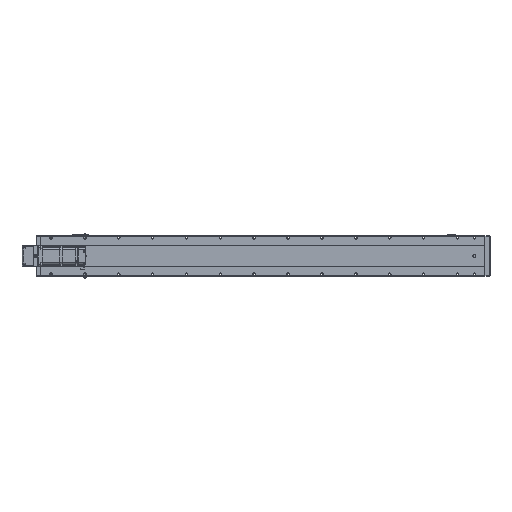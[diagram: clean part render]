
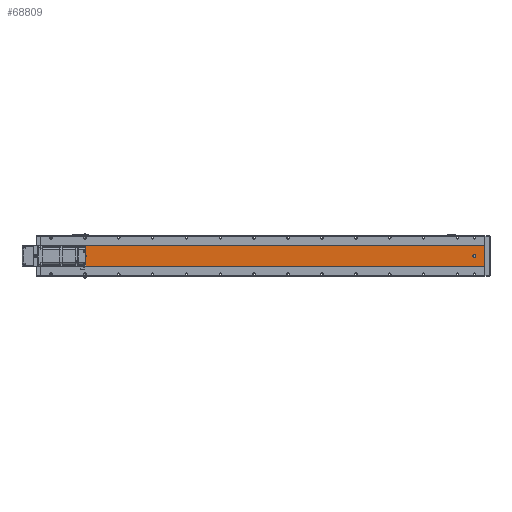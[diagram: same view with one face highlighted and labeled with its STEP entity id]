
A CAD part, front view. The second image highlights one B-rep face of the part: STEP entity #68809.
In plain terms, the highlighted planar face has unit normal (0, -1, 0).
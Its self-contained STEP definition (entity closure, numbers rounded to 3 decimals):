
#100 = FACE_OUTER_BOUND ( 'NONE', #72475, .T. ) ;
#885 = ORIENTED_EDGE ( 'NONE', *, *, #17085, .T. ) ;
#1206 = EDGE_CURVE ( 'NONE', #34655, #63759, #50655, .T. ) ;
#1955 = DIRECTION ( 'NONE',  ( 0., 1., 0. ) ) ;
#2602 = VERTEX_POINT ( 'NONE', #57006 ) ;
#2847 = AXIS2_PLACEMENT_3D ( 'NONE', #50831, #83207, #50553 ) ;
#6127 = ORIENTED_EDGE ( 'NONE', *, *, #20085, .T. ) ;
#6272 = LINE ( 'NONE', #49454, #44627 ) ;
#6919 = DIRECTION ( 'NONE',  ( 0., 0., 1. ) ) ;
#7281 = VECTOR ( 'NONE', #45381, 1000. ) ;
#8021 = VERTEX_POINT ( 'NONE', #15954 ) ;
#8726 = EDGE_CURVE ( 'NONE', #72195, #37219, #76071, .T. ) ;
#10069 = ORIENTED_EDGE ( 'NONE', *, *, #55110, .T. ) ;
#10107 = CIRCLE ( 'NONE', #41247, 3.5 ) ;
#10758 = DIRECTION ( 'NONE',  ( 0., 1., 0. ) ) ;
#11600 = CARTESIAN_POINT ( 'NONE',  ( -69.892, -52.848, 0. ) ) ;
#11965 = DIRECTION ( 'NONE',  ( 0., 0., -1. ) ) ;
#12107 = DIRECTION ( 'NONE',  ( 0., 0., 1. ) ) ;
#12565 = CARTESIAN_POINT ( 'NONE',  ( -36.392, -52.848, 30. ) ) ;
#13209 = VERTEX_POINT ( 'NONE', #12565 ) ;
#15849 = CARTESIAN_POINT ( 'NONE',  ( -9.892, -52.848, 1311. ) ) ;
#15954 = CARTESIAN_POINT ( 'NONE',  ( -43.392, -52.848, 32. ) ) ;
#16198 = VECTOR ( 'NONE', #48722, 1000. ) ;
#17085 = EDGE_CURVE ( 'NONE', #17718, #8021, #6272, .T. ) ;
#17603 = CIRCLE ( 'NONE', #47651, 3.5 ) ;
#17668 = FACE_BOUND ( 'NONE', #69574, .T. ) ;
#17718 = VERTEX_POINT ( 'NONE', #25808 ) ;
#20085 = EDGE_CURVE ( 'NONE', #52794, #82276, #83126, .T. ) ;
#21168 = EDGE_CURVE ( 'NONE', #64671, #13209, #33397, .T. ) ;
#21835 = FACE_BOUND ( 'NONE', #48813, .T. ) ;
#21885 = DIRECTION ( 'NONE',  ( 0., 0., 1. ) ) ;
#24753 = ORIENTED_EDGE ( 'NONE', *, *, #50324, .T. ) ;
#25808 = CARTESIAN_POINT ( 'NONE',  ( -43.392, -52.848, 30. ) ) ;
#25851 = LINE ( 'NONE', #59500, #7281 ) ;
#26155 = VERTEX_POINT ( 'NONE', #43471 ) ;
#26958 = CARTESIAN_POINT ( 'NONE',  ( -39.892, -52.848, 1177.5 ) ) ;
#27810 = ORIENTED_EDGE ( 'NONE', *, *, #85160, .F. ) ;
#28282 = VERTEX_POINT ( 'NONE', #68947 ) ;
#28298 = CIRCLE ( 'NONE', #70532, 3.5 ) ;
#29914 = CARTESIAN_POINT ( 'NONE',  ( -69.892, -52.848, 1311. ) ) ;
#30398 = CIRCLE ( 'NONE', #39427, 3.5 ) ;
#32362 = DIRECTION ( 'NONE',  ( 0., 1., 0. ) ) ;
#33397 = LINE ( 'NONE', #39146, #36444 ) ;
#33639 = DIRECTION ( 'NONE',  ( 0., 0., 1. ) ) ;
#34655 = VERTEX_POINT ( 'NONE', #52769 ) ;
#35594 = ORIENTED_EDGE ( 'NONE', *, *, #76059, .T. ) ;
#36444 = VECTOR ( 'NONE', #11965, 1000. ) ;
#36541 = DIRECTION ( 'NONE',  ( 0., 1., 0. ) ) ;
#36663 = ORIENTED_EDGE ( 'NONE', *, *, #52774, .T. ) ;
#37079 = DIRECTION ( 'NONE',  ( 0., 0., 1. ) ) ;
#37219 = VERTEX_POINT ( 'NONE', #67173 ) ;
#37296 = FACE_BOUND ( 'NONE', #62368, .T. ) ;
#37341 = DIRECTION ( 'NONE',  ( 1., 0., 0. ) ) ;
#38604 = ORIENTED_EDGE ( 'NONE', *, *, #1206, .T. ) ;
#39146 = CARTESIAN_POINT ( 'NONE',  ( -36.392, -52.848, 1311. ) ) ;
#39427 = AXIS2_PLACEMENT_3D ( 'NONE', #66447, #41330, #6919 ) ;
#41169 = DIRECTION ( 'NONE',  ( 0., 1., 0. ) ) ;
#41247 = AXIS2_PLACEMENT_3D ( 'NONE', #74030, #41169, #33639 ) ;
#41330 = DIRECTION ( 'NONE',  ( 0., 1., 0. ) ) ;
#41409 = VECTOR ( 'NONE', #70046, 1000. ) ;
#42576 = DIRECTION ( 'NONE',  ( 0., 0., 1. ) ) ;
#43471 = CARTESIAN_POINT ( 'NONE',  ( -69.892, -52.848, 1311. ) ) ;
#43755 = CARTESIAN_POINT ( 'NONE',  ( -39.892, -52.848, 1184.5 ) ) ;
#44546 = PLANE ( 'NONE',  #2847 ) ;
#44627 = VECTOR ( 'NONE', #42576, 1000. ) ;
#45381 = DIRECTION ( 'NONE',  ( 0., 0., -1. ) ) ;
#46869 = EDGE_CURVE ( 'NONE', #63759, #34655, #30398, .T. ) ;
#47005 = VECTOR ( 'NONE', #37341, 1000. ) ;
#47651 = AXIS2_PLACEMENT_3D ( 'NONE', #76611, #10758, #37079 ) ;
#47677 = CARTESIAN_POINT ( 'NONE',  ( -39.892, -52.848, 1284.5 ) ) ;
#47783 = AXIS2_PLACEMENT_3D ( 'NONE', #76088, #36541, #69757 ) ;
#48722 = DIRECTION ( 'NONE',  ( 0., 0., -1. ) ) ;
#48813 = EDGE_LOOP ( 'NONE', ( #38604, #57799 ) ) ;
#49454 = CARTESIAN_POINT ( 'NONE',  ( -43.392, -52.848, 1311. ) ) ;
#50324 = EDGE_CURVE ( 'NONE', #2602, #37219, #64575, .T. ) ;
#50553 = DIRECTION ( 'NONE',  ( 0., 0., 1. ) ) ;
#50655 = CIRCLE ( 'NONE', #53070, 3.5 ) ;
#50831 = CARTESIAN_POINT ( 'NONE',  ( -69.892, -52.848, 1311. ) ) ;
#52620 = CIRCLE ( 'NONE', #56502, 3.5 ) ;
#52769 = CARTESIAN_POINT ( 'NONE',  ( -39.892, -52.848, 1277.5 ) ) ;
#52774 = EDGE_CURVE ( 'NONE', #13209, #28282, #17603, .T. ) ;
#52794 = VERTEX_POINT ( 'NONE', #43755 ) ;
#53070 = AXIS2_PLACEMENT_3D ( 'NONE', #54544, #1955, #21885 ) ;
#54544 = CARTESIAN_POINT ( 'NONE',  ( -39.892, -52.848, 1281. ) ) ;
#55110 = EDGE_CURVE ( 'NONE', #26155, #2602, #25851, .T. ) ;
#55997 = ORIENTED_EDGE ( 'NONE', *, *, #70118, .T. ) ;
#56502 = AXIS2_PLACEMENT_3D ( 'NONE', #79099, #32362, #12107 ) ;
#57006 = CARTESIAN_POINT ( 'NONE',  ( -69.892, -52.848, 0. ) ) ;
#57799 = ORIENTED_EDGE ( 'NONE', *, *, #46869, .T. ) ;
#58957 = LINE ( 'NONE', #29914, #41409 ) ;
#59500 = CARTESIAN_POINT ( 'NONE',  ( -69.892, -52.848, 1311. ) ) ;
#61714 = ORIENTED_EDGE ( 'NONE', *, *, #78222, .T. ) ;
#62368 = EDGE_LOOP ( 'NONE', ( #55997, #79112, #36663, #35594, #885 ) ) ;
#62522 = DIRECTION ( 'NONE',  ( 0., 0., 1. ) ) ;
#63759 = VERTEX_POINT ( 'NONE', #47677 ) ;
#64575 = LINE ( 'NONE', #11600, #47005 ) ;
#64671 = VERTEX_POINT ( 'NONE', #66014 ) ;
#66014 = CARTESIAN_POINT ( 'NONE',  ( -36.392, -52.848, 32. ) ) ;
#66447 = CARTESIAN_POINT ( 'NONE',  ( -39.892, -52.848, 1281. ) ) ;
#67173 = CARTESIAN_POINT ( 'NONE',  ( -9.892, -52.848, 0. ) ) ;
#68614 = DIRECTION ( 'NONE',  ( 0., 1., 0. ) ) ;
#68809 = ADVANCED_FACE ( 'NONE', ( #37296, #17668, #21835, #100 ), #44546, .F. ) ;
#68888 = ORIENTED_EDGE ( 'NONE', *, *, #8726, .F. ) ;
#68947 = CARTESIAN_POINT ( 'NONE',  ( -39.892, -52.848, 26.5 ) ) ;
#69574 = EDGE_LOOP ( 'NONE', ( #61714, #6127 ) ) ;
#69757 = DIRECTION ( 'NONE',  ( 0., 0., 1. ) ) ;
#70046 = DIRECTION ( 'NONE',  ( 1., 0., 0. ) ) ;
#70118 = EDGE_CURVE ( 'NONE', #8021, #64671, #10107, .T. ) ;
#70532 = AXIS2_PLACEMENT_3D ( 'NONE', #81853, #68614, #62522 ) ;
#72195 = VERTEX_POINT ( 'NONE', #74371 ) ;
#72475 = EDGE_LOOP ( 'NONE', ( #24753, #68888, #27810, #10069 ) ) ;
#74030 = CARTESIAN_POINT ( 'NONE',  ( -39.892, -52.848, 32. ) ) ;
#74371 = CARTESIAN_POINT ( 'NONE',  ( -9.892, -52.848, 1311. ) ) ;
#76059 = EDGE_CURVE ( 'NONE', #28282, #17718, #52620, .T. ) ;
#76071 = LINE ( 'NONE', #15849, #16198 ) ;
#76088 = CARTESIAN_POINT ( 'NONE',  ( -39.892, -52.848, 1181. ) ) ;
#76611 = CARTESIAN_POINT ( 'NONE',  ( -39.892, -52.848, 30. ) ) ;
#78222 = EDGE_CURVE ( 'NONE', #82276, #52794, #28298, .T. ) ;
#79099 = CARTESIAN_POINT ( 'NONE',  ( -39.892, -52.848, 30. ) ) ;
#79112 = ORIENTED_EDGE ( 'NONE', *, *, #21168, .T. ) ;
#81853 = CARTESIAN_POINT ( 'NONE',  ( -39.892, -52.848, 1181. ) ) ;
#82276 = VERTEX_POINT ( 'NONE', #26958 ) ;
#83126 = CIRCLE ( 'NONE', #47783, 3.5 ) ;
#83207 = DIRECTION ( 'NONE',  ( 0., 1., 0. ) ) ;
#85160 = EDGE_CURVE ( 'NONE', #26155, #72195, #58957, .T. ) ;
